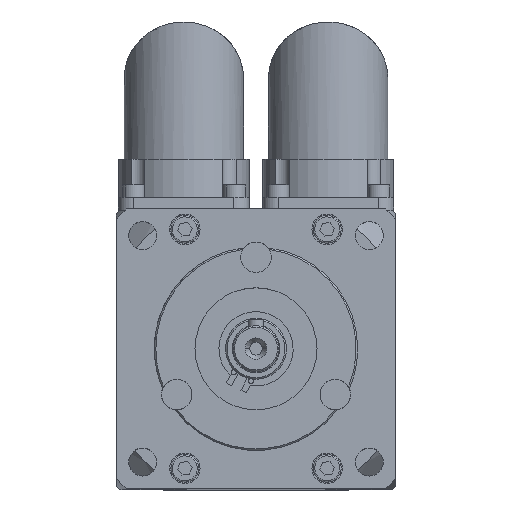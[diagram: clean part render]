
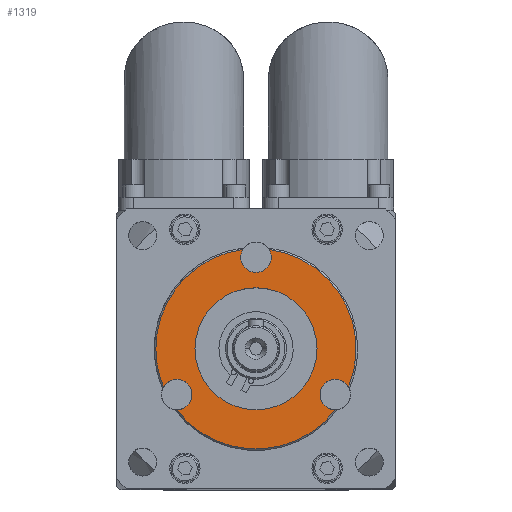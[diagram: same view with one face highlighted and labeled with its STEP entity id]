
A CAD part, top view. The second image highlights one B-rep face of the part: STEP entity #1319.
In plain terms, the highlighted planar face has unit normal (0, 0, 1).
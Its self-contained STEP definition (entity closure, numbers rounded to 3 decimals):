
#712 = VERTEX_POINT ( 'NONE', #12233 ) ;
#1034 = VERTEX_POINT ( 'NONE', #3746 ) ;
#1289 = VERTEX_POINT ( 'NONE', #6284 ) ;
#1319 = ADVANCED_FACE ( 'NONE', ( #5629, #5420 ), #6364, .T. ) ;
#1544 = VERTEX_POINT ( 'NONE', #6453 ) ;
#1557 = VERTEX_POINT ( 'NONE', #6642 ) ;
#1570 = VERTEX_POINT ( 'NONE', #6688 ) ;
#1577 = VERTEX_POINT ( 'NONE', #6186 ) ;
#1587 = VERTEX_POINT ( 'NONE', #10911 ) ;
#1592 = VERTEX_POINT ( 'NONE', #11019 ) ;
#1616 = VERTEX_POINT ( 'NONE', #11004 ) ;
#1619 = VERTEX_POINT ( 'NONE', #10904 ) ;
#1623 = VERTEX_POINT ( 'NONE', #11071 ) ;
#1630 = VERTEX_POINT ( 'NONE', #10914 ) ;
#2810 = CIRCLE ( 'NONE', #9229, 3. ) ;
#3150 = CIRCLE ( 'NONE', #8936, 12. ) ;
#3746 = CARTESIAN_POINT ( 'NONE',  ( 2.58, 19.53, 16.4 ) ) ;
#5420 = FACE_BOUND ( 'NONE', #8450, .T. ) ;
#5629 = FACE_OUTER_BOUND ( 'NONE', #8494, .T. ) ;
#6186 = CARTESIAN_POINT ( 'NONE',  ( -12., 0., 16.4 ) ) ;
#6284 = CARTESIAN_POINT ( 'NONE',  ( 18.204, -7.53, 16.4 ) ) ;
#6363 = CARTESIAN_POINT ( 'NONE',  ( -27.5, 27.5, 16.4 ) ) ;
#6364 = PLANE ( 'NONE',  #8768 ) ;
#6367 = DIRECTION ( 'NONE',  ( 0., 0., 1. ) ) ;
#6368 = DIRECTION ( 'NONE',  ( 1., 0., 0. ) ) ;
#6453 = CARTESIAN_POINT ( 'NONE',  ( 12.588, -9., 16.4 ) ) ;
#6642 = CARTESIAN_POINT ( 'NONE',  ( -15.624, -12., 16.4 ) ) ;
#6688 = CARTESIAN_POINT ( 'NONE',  ( 12., 0., 16.4 ) ) ;
#7736 = ORIENTED_EDGE ( 'NONE', *, *, #9609, .T. ) ;
#7750 = ORIENTED_EDGE ( 'NONE', *, *, #9629, .F. ) ;
#7759 = ORIENTED_EDGE ( 'NONE', *, *, #9587, .F. ) ;
#7774 = ORIENTED_EDGE ( 'NONE', *, *, #9585, .F. ) ;
#7776 = ORIENTED_EDGE ( 'NONE', *, *, #9633, .T. ) ;
#7777 = ORIENTED_EDGE ( 'NONE', *, *, #9643, .T. ) ;
#7778 = ORIENTED_EDGE ( 'NONE', *, *, #9628, .F. ) ;
#7780 = ORIENTED_EDGE ( 'NONE', *, *, #9505, .F. ) ;
#7782 = ORIENTED_EDGE ( 'NONE', *, *, #9667, .T. ) ;
#7784 = ORIENTED_EDGE ( 'NONE', *, *, #9704, .F. ) ;
#7786 = ORIENTED_EDGE ( 'NONE', *, *, #9563, .F. ) ;
#7788 = ORIENTED_EDGE ( 'NONE', *, *, #9546, .F. ) ;
#7792 = ORIENTED_EDGE ( 'NONE', *, *, #9652, .F. ) ;
#7999 = CIRCLE ( 'NONE', #9222, 3. ) ;
#8450 = EDGE_LOOP ( 'NONE', ( #7786, #7788 ) ) ;
#8494 = EDGE_LOOP ( 'NONE', ( #7750, #7736, #7759, #7792, #7774, #7776, #7777, #7778, #7780, #7782, #7784 ) ) ;
#8768 = AXIS2_PLACEMENT_3D ( 'NONE', #6363, #6367, #6368 ) ;
#8936 = AXIS2_PLACEMENT_3D ( 'NONE', #10336, #10328, #10346 ) ;
#8950 = AXIS2_PLACEMENT_3D ( 'NONE', #10621, #10382, #10423 ) ;
#8955 = AXIS2_PLACEMENT_3D ( 'NONE', #10630, #10764, #10763 ) ;
#8985 = AXIS2_PLACEMENT_3D ( 'NONE', #10456, #10436, #10430 ) ;
#8986 = AXIS2_PLACEMENT_3D ( 'NONE', #10498, #10475, #10476 ) ;
#9026 = AXIS2_PLACEMENT_3D ( 'NONE', #10669, #10510, #10794 ) ;
#9045 = AXIS2_PLACEMENT_3D ( 'NONE', #10867, #10393, #10609 ) ;
#9169 = AXIS2_PLACEMENT_3D ( 'NONE', #10862, #10891, #10824 ) ;
#9187 = AXIS2_PLACEMENT_3D ( 'NONE', #10388, #10488, #10383 ) ;
#9222 = AXIS2_PLACEMENT_3D ( 'NONE', #10520, #10474, #10441 ) ;
#9225 = AXIS2_PLACEMENT_3D ( 'NONE', #10489, #10481, #10482 ) ;
#9227 = AXIS2_PLACEMENT_3D ( 'NONE', #10769, #10771, #10774 ) ;
#9229 = AXIS2_PLACEMENT_3D ( 'NONE', #13342, #13401, #13404 ) ;
#9328 = CIRCLE ( 'NONE', #9169, 19.7 ) ;
#9359 = CIRCLE ( 'NONE', #9227, 3. ) ;
#9362 = CIRCLE ( 'NONE', #8955, 3. ) ;
#9396 = CIRCLE ( 'NONE', #8950, 12. ) ;
#9505 = EDGE_CURVE ( 'NONE', #1557, #1616, #2810, .T. ) ;
#9546 = EDGE_CURVE ( 'NONE', #1577, #1570, #3150, .T. ) ;
#9563 = EDGE_CURVE ( 'NONE', #1570, #1577, #9396, .T. ) ;
#9585 = EDGE_CURVE ( 'NONE', #712, #1587, #9362, .T. ) ;
#9587 = EDGE_CURVE ( 'NONE', #1619, #1034, #9359, .T. ) ;
#9609 = EDGE_CURVE ( 'NONE', #1289, #1034, #9328, .T. ) ;
#9628 = EDGE_CURVE ( 'NONE', #1616, #1623, #9942, .T. ) ;
#9629 = EDGE_CURVE ( 'NONE', #1289, #1544, #9931, .T. ) ;
#9633 = EDGE_CURVE ( 'NONE', #712, #1592, #9919, .T. ) ;
#9643 = EDGE_CURVE ( 'NONE', #1592, #1623, #9902, .T. ) ;
#9652 = EDGE_CURVE ( 'NONE', #1587, #1619, #9918, .T. ) ;
#9667 = EDGE_CURVE ( 'NONE', #1557, #1630, #10364, .T. ) ;
#9704 = EDGE_CURVE ( 'NONE', #1544, #1630, #7999, .T. ) ;
#9902 = CIRCLE ( 'NONE', #9187, 19.7 ) ;
#9918 = CIRCLE ( 'NONE', #9045, 3. ) ;
#9919 = CIRCLE ( 'NONE', #8985, 19.7 ) ;
#9931 = CIRCLE ( 'NONE', #8986, 3. ) ;
#9942 = CIRCLE ( 'NONE', #9225, 3. ) ;
#10328 = DIRECTION ( 'NONE',  ( 0., 0., 1. ) ) ;
#10336 = CARTESIAN_POINT ( 'NONE',  ( 0., 0., 16.4 ) ) ;
#10346 = DIRECTION ( 'NONE',  ( 1., 0., 0. ) ) ;
#10364 = CIRCLE ( 'NONE', #9026, 19.7 ) ;
#10382 = DIRECTION ( 'NONE',  ( 0., 0., 1. ) ) ;
#10383 = DIRECTION ( 'NONE',  ( 1., 0., 0. ) ) ;
#10388 = CARTESIAN_POINT ( 'NONE',  ( 0., 0., 16.4 ) ) ;
#10393 = DIRECTION ( 'NONE',  ( 0., 0., 1. ) ) ;
#10423 = DIRECTION ( 'NONE',  ( 1., 0., 0. ) ) ;
#10430 = DIRECTION ( 'NONE',  ( 1., 0., 0. ) ) ;
#10436 = DIRECTION ( 'NONE',  ( 0., 0., 1. ) ) ;
#10441 = DIRECTION ( 'NONE',  ( -0.5, -0.866, 0. ) ) ;
#10456 = CARTESIAN_POINT ( 'NONE',  ( 0., 0., 16.4 ) ) ;
#10474 = DIRECTION ( 'NONE',  ( 0., 0., 1. ) ) ;
#10475 = DIRECTION ( 'NONE',  ( 0., 0., 1. ) ) ;
#10476 = DIRECTION ( 'NONE',  ( -0.5, -0.866, 0. ) ) ;
#10481 = DIRECTION ( 'NONE',  ( 0., 0., 1. ) ) ;
#10482 = DIRECTION ( 'NONE',  ( -0.5, 0.866, 0. ) ) ;
#10488 = DIRECTION ( 'NONE',  ( 0., 0., 1. ) ) ;
#10489 = CARTESIAN_POINT ( 'NONE',  ( -15.588, -9., 16.4 ) ) ;
#10498 = CARTESIAN_POINT ( 'NONE',  ( 15.588, -9., 16.4 ) ) ;
#10510 = DIRECTION ( 'NONE',  ( 0., 0., 1. ) ) ;
#10520 = CARTESIAN_POINT ( 'NONE',  ( 15.588, -9., 16.4 ) ) ;
#10609 = DIRECTION ( 'NONE',  ( 1., 0., 0. ) ) ;
#10621 = CARTESIAN_POINT ( 'NONE',  ( 0., 0., 16.4 ) ) ;
#10630 = CARTESIAN_POINT ( 'NONE',  ( 0., 18., 16.4 ) ) ;
#10669 = CARTESIAN_POINT ( 'NONE',  ( 0., 0., 16.4 ) ) ;
#10763 = DIRECTION ( 'NONE',  ( 1., 0., 0. ) ) ;
#10764 = DIRECTION ( 'NONE',  ( 0., 0., 1. ) ) ;
#10769 = CARTESIAN_POINT ( 'NONE',  ( 0., 18., 16.4 ) ) ;
#10771 = DIRECTION ( 'NONE',  ( 0., 0., 1. ) ) ;
#10774 = DIRECTION ( 'NONE',  ( 1., 0., 0. ) ) ;
#10794 = DIRECTION ( 'NONE',  ( 1., 0., 0. ) ) ;
#10824 = DIRECTION ( 'NONE',  ( 1., 0., 0. ) ) ;
#10862 = CARTESIAN_POINT ( 'NONE',  ( 0., 0., 16.4 ) ) ;
#10867 = CARTESIAN_POINT ( 'NONE',  ( 0., 18., 16.4 ) ) ;
#10891 = DIRECTION ( 'NONE',  ( 0., 0., 1. ) ) ;
#10904 = CARTESIAN_POINT ( 'NONE',  ( 3., 18., 16.4 ) ) ;
#10911 = CARTESIAN_POINT ( 'NONE',  ( -3., 18., 16.4 ) ) ;
#10914 = CARTESIAN_POINT ( 'NONE',  ( 15.624, -12., 16.4 ) ) ;
#11004 = CARTESIAN_POINT ( 'NONE',  ( -12.588, -9., 16.4 ) ) ;
#11019 = CARTESIAN_POINT ( 'NONE',  ( -19.7, 0., 16.4 ) ) ;
#11071 = CARTESIAN_POINT ( 'NONE',  ( -18.204, -7.53, 16.4 ) ) ;
#12233 = CARTESIAN_POINT ( 'NONE',  ( -2.58, 19.53, 16.4 ) ) ;
#13342 = CARTESIAN_POINT ( 'NONE',  ( -15.588, -9., 16.4 ) ) ;
#13401 = DIRECTION ( 'NONE',  ( 0., 0., 1. ) ) ;
#13404 = DIRECTION ( 'NONE',  ( -0.5, 0.866, 0. ) ) ;
